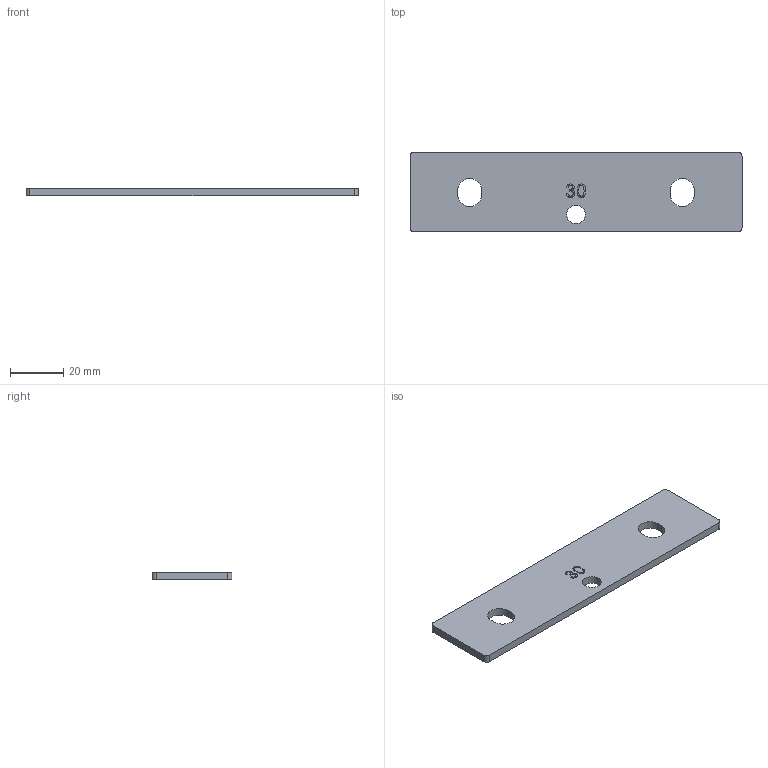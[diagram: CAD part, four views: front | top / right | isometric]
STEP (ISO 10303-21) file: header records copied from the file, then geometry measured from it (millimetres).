
FILE_DESCRIPTION(('STEP AP242'),'1');
FILE_NAME('hm Gressel Hilma.stp','2024-06-17T13:15:08',('WM'),('Schleif-Tec'),'Spatial InterOp 3D','CimatronE 16.0',' ');
FILE_SCHEMA(('AP242_MANAGED_MODEL_BASED_3D_ENGINEERING_MIM_LF'));
Length unit declared in the file: millimetre
Products named in the file (1): 13
Bounding box: 125 x 30 x 3 mm (x, y, z)
Volume: 10657.8 mm3; surface area: 8293.2 mm2
Topology: 1 solids, 1 shells, 31 faces, 79 edges, 53 vertices
Faces by surface type: plane 16, cylinder 9, extrusion 6
Full cylindrical faces by diameter (mm): 7 x1
Entity records: 1638 total; most frequent: CARTESIAN_POINT 614, ORIENTED_EDGE 154, DIRECTION 141, EDGE_CURVE 77, VECTOR 53, VERTEX_POINT 52, LINE 47, AXIS2_PLACEMENT_3D 44
